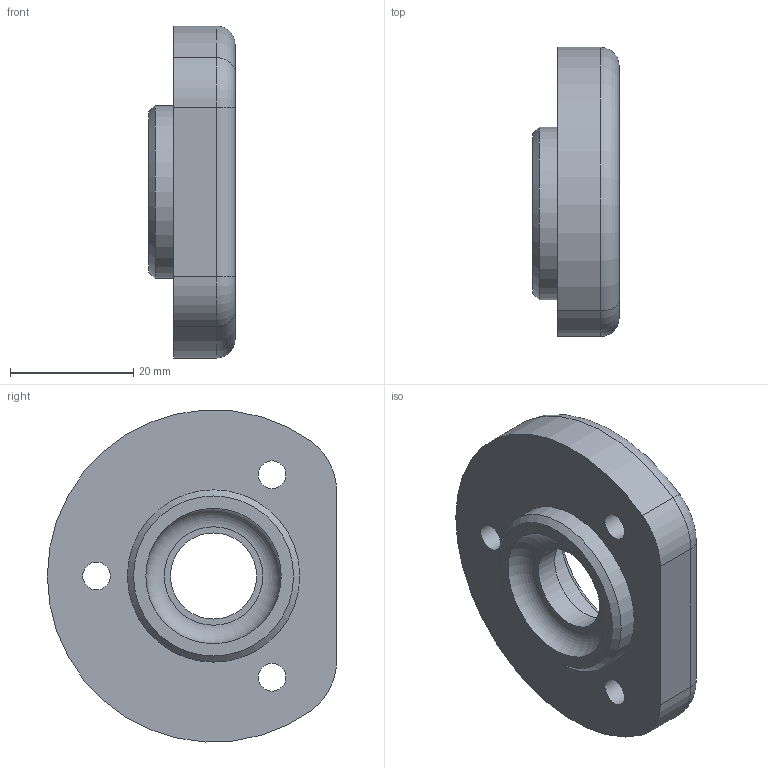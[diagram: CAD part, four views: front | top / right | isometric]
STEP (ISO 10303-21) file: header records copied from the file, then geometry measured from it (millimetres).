
FILE_DESCRIPTION(/* description */ (''),/* implementation_level */ '2;1');
FILE_NAME(/* name */ '',/* time_stamp */ '2026-03-04T10:07:56+09:00',/* author */ ('jhkim'),/* organization */ (''),/* preprocessor_version */ 'ST-DEVELOPER v20.1',/* originating_system */ 'Autodesk Inventor 2026',/* authorisation */ '');
FILE_SCHEMA (('AUTOMOTIVE_DESIGN { 1 0 10303 214 3 1 1 }'));
Length unit declared in the file: millimetre
Products named in the file (1): 상부 커버
Bounding box: 14 x 47 x 53.94 mm (x, y, z)
Volume: 17102.7 mm3; surface area: 6937.5 mm2
Topology: 1 solids, 1 shells, 29 faces, 59 edges, 38 vertices
Faces by surface type: cylinder 13, plane 9, torus 5, cone 2
Full cylindrical faces by diameter (mm): 4.5 x3, 8 x3, 14 x1, 25 x1, 28 x1
Entity records: 841 total; most frequent: DIRECTION 160, CARTESIAN_POINT 127, ORIENTED_EDGE 118, AXIS2_PLACEMENT_3D 71, EDGE_CURVE 59, EDGE_LOOP 43, CIRCLE 41, VERTEX_POINT 38
